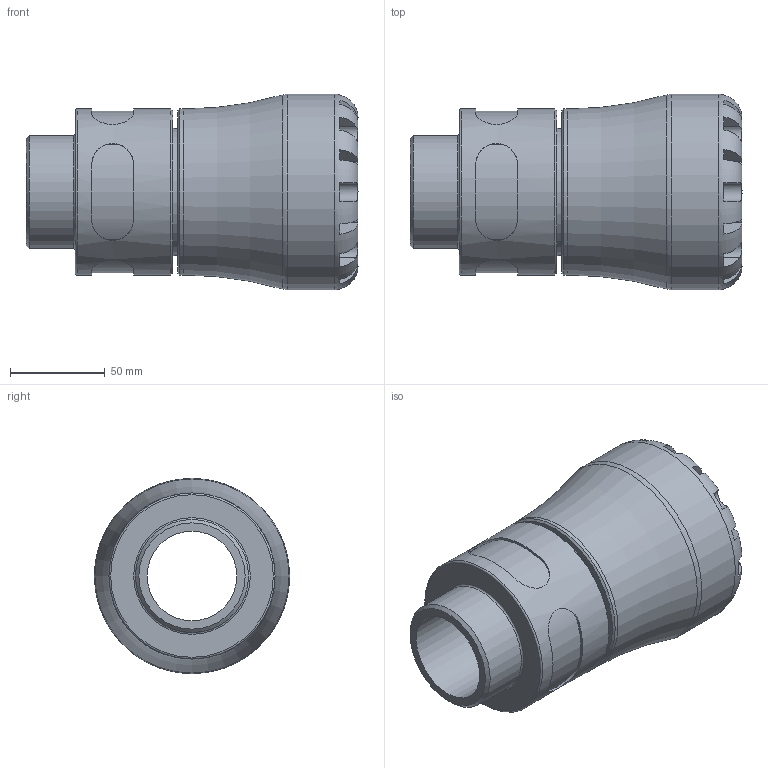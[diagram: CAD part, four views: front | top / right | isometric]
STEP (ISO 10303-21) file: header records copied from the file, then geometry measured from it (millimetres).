
FILE_DESCRIPTION(/* description */ ('PLASSON MALE ADAPTOR 63X2" SERIES 1'),/* implementation_level */ '2;1');
FILE_NAME(/* name */ 'C:\Dropbox\KIMPROJECTS-Inventor 2019\99-16-3568-Processing\S1\10N20\stp\10N200063020_10N2G0063020.stp',/* time_stamp */ '2024-03-12T13:20:12+01:00',/* author */ ('KIM'),/* organization */ (''),/* preprocessor_version */ 'ST-DEVELOPER v17.2',/* originating_system */ 'Autodesk Inventor 2019',/* authorisation */ '');
FILE_SCHEMA (('AUTOMOTIVE_DESIGN { 1 0 10303 214 3 1 1 }'));
Length unit declared in the file: millimetre
Products named in the file (1): 10N200063020_10N2G0063020
Bounding box: 175 x 103 x 103 mm (x, y, z)
Volume: 635119.3 mm3; surface area: 95915 mm2
Topology: 1 solids, 1 shells, 114 faces, 303 edges, 198 vertices
Faces by surface type: plane 70, cylinder 35, torus 5, cone 4
Full cylindrical faces by diameter (mm): 47.25 x1, 59.614 x1, 63 x1, 67 x1, 87.55 x2, 103 x1
Entity records: 4514 total; most frequent: CARTESIAN_POINT 1572, ORIENTED_EDGE 606, DIRECTION 592, EDGE_CURVE 303, AXIS2_PLACEMENT_3D 246, VERTEX_POINT 198, CIRCLE 131, EDGE_LOOP 123
